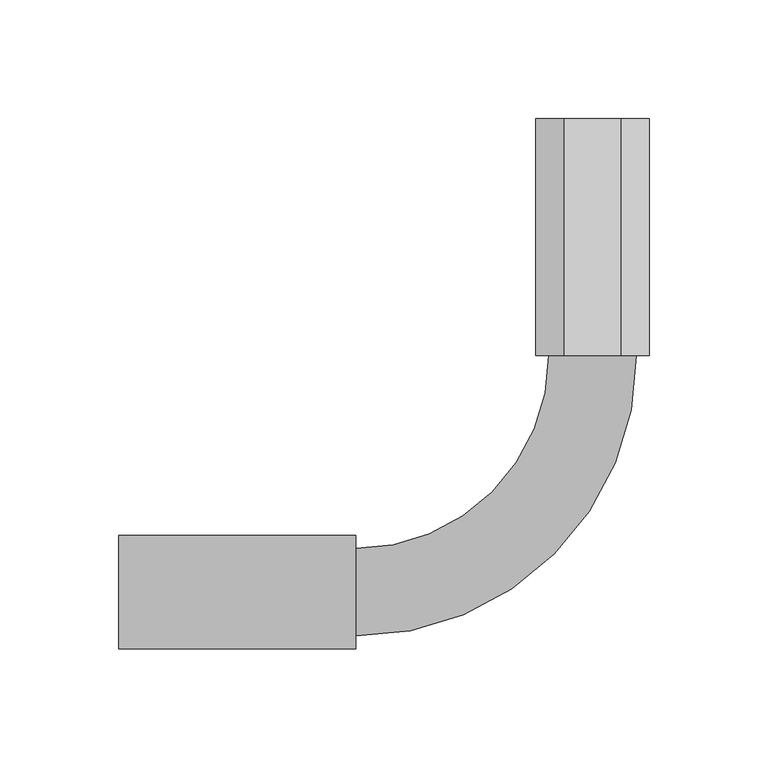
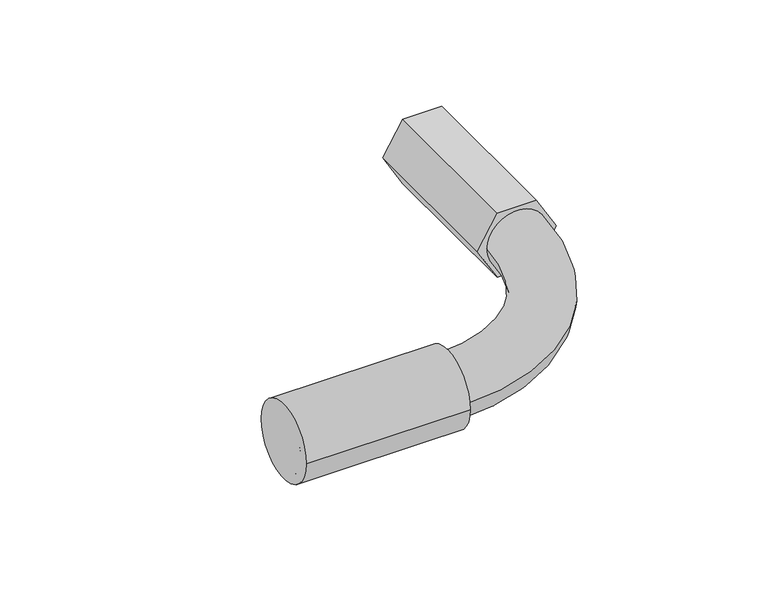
"""IFC4 building model written with IfcOpenShell, lengths in millimetres: cable carrier fitting geometry, Муфта_гибкая_труба-труба_IP44 : Муфта гибкая труба-труба D32мм."""

from ifc_helpers import new_model, si_unit, point, frame, origin, origin_2d, place, context, project, spatial, polyline, circle_curve, ellipse_curve, trimmed, segment, composite_curve, outline, extrude, source, transform, mapped, element, save
from ifc_brep_helpers import plane_surface, cylinder_surface, revolved_surface, advanced_brep


def cable_carrier_fitting_de78d5c7(model_context):
    return source(origin(), model_context, "Body", "SolidModel", [
        extrude(outline(composite_curve([segment(trimmed(circle_curve(origin_2d(), 24.0), [point((-24.0, 0.0))], [point((24.0, 0.0))], False, "CARTESIAN"), True, "CONTINUOUS"), segment(trimmed(circle_curve(origin_2d(), 24.0), [point((24.0, 0.0))], [point((-24.0, 0.0))], False, "CARTESIAN"), True, "CONTINUOUS")], self_intersect=False)), frame((-200.0, 0.0, 0.0), z_axis=(1.0, 0.0, 0.0), x_axis=(0.0, 1.0, 0.0)), (0.0, 0.0, 1.0), 100.0),
        extrude(outline(polyline([(-20.7846097, 12.0), (0.0, 24.0), (20.7846097, 12.0), (20.7846097, -12.0), (0.0, -24.0), (-20.7846097, -12.0), (-20.7846097, 12.0)])), frame((0.0, 100.0, 0.0), z_axis=(0.0, 1.0, 0.0), x_axis=(0.0, 0.0, 1.0)), (0.0, 0.0, 1.0), 100.0),
        advanced_brep(
        [(-200.0, -18.5, 0.0), (-200.0, 18.5, 0.0), (-100.0, -18.5, 0.0), (-100.0, 18.5, 0.0), (-18.5, 100.0, 0.0), (18.5, 100.0, 0.0), (18.5, 200.0, 0.0), (-18.5, 200.0, 0.0)],
        [
            (0, 1, circle_curve(frame((-200.0, 0.0, 0.0), z_axis=(-1.0, 0.0, 0.0), x_axis=(0.0, 1.0, 0.0)), 18.5)),
            (1, 0, circle_curve(frame((-200.0, 0.0, 0.0), z_axis=(-1.0, 0.0, 0.0), x_axis=(0.0, 1.0, 0.0)), 18.5)),
            (0, 2),
            (2, 3, circle_curve(frame((-100.0, 0.0, 0.0), z_axis=(-1.0, 0.0, 0.0), x_axis=(0.0, 1.0, 0.0)), 18.5)),
            (3, 1),
            (3, 2, circle_curve(frame((-100.0, 0.0, 0.0), z_axis=(-1.0, 0.0, 0.0), x_axis=(0.0, 1.0, 0.0)), 18.5)),
            (4, 3, circle_curve(frame((-100.0, 100.0, 0.0), z_axis=(0.0, 0.0, -1.0), x_axis=(0.0, -1.0, 0.0)), 81.5)),
            (2, 5, circle_curve(frame((-100.0, 100.0, 0.0), z_axis=(0.0, 0.0, 1.0), x_axis=(0.0, -1.0, 0.0)), 118.5)),
            (5, 4, circle_curve(frame((0.0, 100.0, 0.0), z_axis=(0.0, -1.0, 0.0), x_axis=(-1.0, 0.0, 0.0)), 18.5)),
            (4, 5, circle_curve(frame((0.0, 100.0, 0.0), z_axis=(0.0, -1.0, 0.0), x_axis=(-1.0, 0.0, 0.0)), 18.5)),
            (6, 7, circle_curve(frame((0.0, 200.0, 0.0), z_axis=(0.0, 1.0, 0.0), x_axis=(-1.0, 0.0, 0.0)), 18.5)),
            (7, 6, circle_curve(frame((0.0, 200.0, 0.0), z_axis=(0.0, 1.0, 0.0), x_axis=(-1.0, 0.0, 0.0)), 18.5)),
            (5, 6),
            (7, 4),
        ],
        [
            plane_surface(frame((-200.0, 0.0, 0.0), z_axis=(-1.0, 0.0, 0.0), x_axis=(0.0, 0.0, 1.0))),
            cylinder_surface(frame((-200.0, 0.0, 0.0), z_axis=(-1.0, 0.0, 0.0), x_axis=(0.0, 1.0, 0.0)), 18.5),
            revolved_surface(trimmed(ellipse_curve(frame((-100.0, 0.0, 0.0), z_axis=(-1.0, 0.0, 0.0), x_axis=(0.0, 1.0, 0.0)), 18.5, 18.5), [point((-100.0, -18.5, 0.0))], [point((-100.0, 18.5, 0.0))], True, "CARTESIAN"), (-100.0, 100.0, 0.0), (0.0, 0.0, 1.0)),
            revolved_surface(trimmed(ellipse_curve(frame((-100.0, 0.0, 0.0), z_axis=(-1.0, 0.0, 0.0), x_axis=(0.0, 1.0, 0.0)), 18.5, 18.5), [point((-100.0, 18.5, 0.0))], [point((-100.0, -18.5, 0.0))], True, "CARTESIAN"), (-100.0, 100.0, 0.0), (0.0, 0.0, 1.0)),
            plane_surface(frame((0.0, 200.0, 0.0), z_axis=(0.0, 1.0, 0.0), x_axis=(0.0, 0.0, 1.0))),
            cylinder_surface(frame((0.0, 100.0, 0.0), z_axis=(0.0, -1.0, 0.0), x_axis=(-1.0, 0.0, 0.0)), 18.5),
        ],
        [
            (0, [[1, 2]]),
            (1, [[-1, 3, 4, 5]]),
            (1, [[-2, -5, 6, -3]]),
            (2, [[7, -4, 8, 9]]),
            (3, [[-8, -6, -7, 10]]),
            (4, [[11, 12]]),
            (5, [[-9, 13, -12, 14]]),
            (5, [[-10, -14, -11, -13]]),
        ],
    ),
    ])


if __name__ == "__main__":
    model = new_model("IFC4")
    model_context = context("Model", 3, world=origin())
    ifc_project = project(units=[si_unit("LENGTHUNIT", "METRE", prefix="MILLI")], contexts=[model_context])
    site = spatial("IfcSite", under=ifc_project)
    building = spatial("IfcBuilding", under=site)
    placement = place(None, origin())
    cable_carrier_fitting_shape = cable_carrier_fitting_de78d5c7(model_context)
    element("IfcCableCarrierFitting", 1, ObjectType="Муфта_гибкая_труба-труба_IP44 : Муфта гибкая труба-труба D32мм", at=placement, inside=building, context=model_context, shape_type="MappedRepresentation", body=[
        mapped(cable_carrier_fitting_shape, transform((0.0, 0.0, 0.0), x_axis=(1.0, 0.0, 0.0), y_axis=(0.0, 1.0, 0.0), z_axis=(0.0, 0.0, 1.0))),
    ])
    save(model, "model.ifc")
